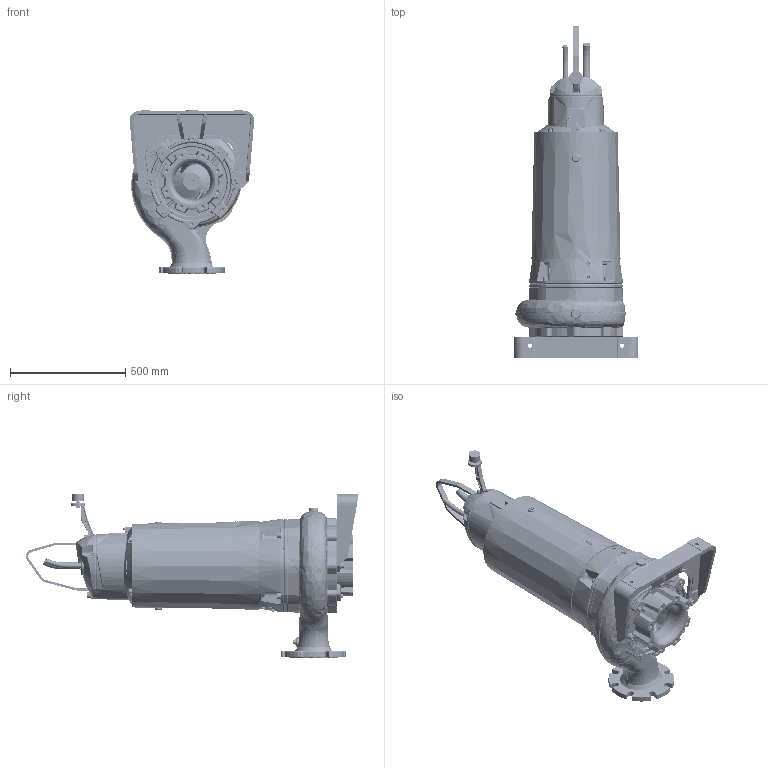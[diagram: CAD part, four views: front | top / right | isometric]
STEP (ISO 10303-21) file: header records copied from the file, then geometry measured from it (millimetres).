
FILE_DESCRIPTION (( 'STEP AP203' ), '1' );
FILE_NAME ('310101566.STEP', '2020-09-01T06:58:06', ( '' ), ( '' ), 'SwSTEP 2.0', 'SolidWorks 2017', '' );
FILE_SCHEMA (( 'CONFIG_CONTROL_DESIGN' ));
Products named in the file (2): 310101566
Bounding box: 540.84 x 1442.2 x 710 mm (x, y, z)
Volume: 47643867.4 mm3; surface area: 7261709 mm2
Topology: 71 solids, 71 shells, 8601 faces, 20190 edges, 11464 vertices
Faces by surface type: bspline 2642, cylinder 2251, plane 1973, torus 895, sphere 487, cone 353
Full cylindrical faces by diameter (mm): 2.295 x2, 2.9 x4, 3 x4, 3.2 x4, 4.2 x3, 5 x14, 5.3 x4, 5.9 x3, 6 x13, 6.6 x1, 6.8 x10, 8 x16, 8.5 x4, 9 x5, 10 x18, 10.2 x12, 10.5 x3, 11 x6, 12 x30, 12.4 x1, 13 x18, 14 x13, 15 x3, 16 x28, 16.5 x3, 17 x9, 17.5 x10, 17.89 x1, 18 x22, 20 x20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
Entity records: 529036 total; most frequent: CARTESIAN_POINT 359826, ORIENTED_EDGE 37178, DIRECTION 31076, EDGE_CURVE 18589, AXIS2_PLACEMENT_3D 12702, VERTEX_POINT 11219, EDGE_LOOP 9866, FACE_OUTER_BOUND 9174
